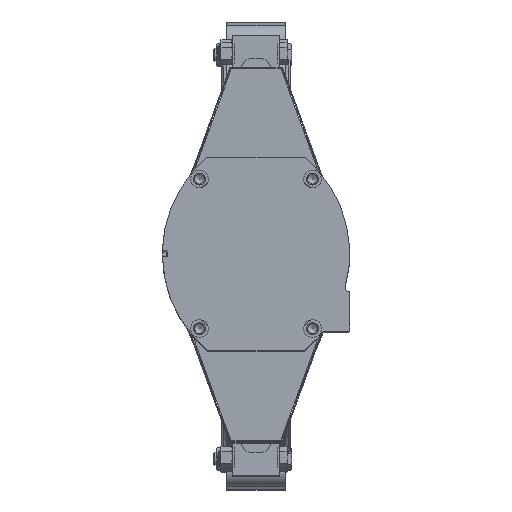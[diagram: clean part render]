
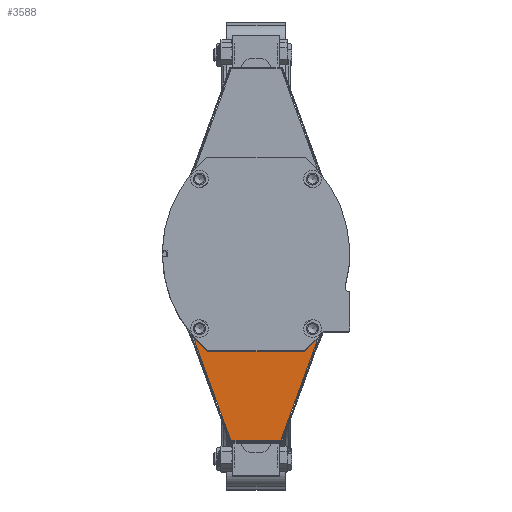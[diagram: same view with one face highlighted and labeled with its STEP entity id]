
A CAD part, top view. The second image highlights one B-rep face of the part: STEP entity #3588.
In plain terms, the highlighted planar face has unit normal (0, 0, 1).
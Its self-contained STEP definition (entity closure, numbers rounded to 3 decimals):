
#3588=ADVANCED_FACE('',(#8460),#8461,.F.);
#8460=FACE_OUTER_BOUND('',#17967,.T.);
#8461=PLANE('',#17968);
#17967=EDGE_LOOP('',(#34675,#34676,#34677,#34678,#34679,#34680));
#17968=AXIS2_PLACEMENT_3D('',#34681,#34682,#34683);
#34675=ORIENTED_EDGE('',*,*,#54496,.F.);
#34676=ORIENTED_EDGE('',*,*,#54497,.T.);
#34677=ORIENTED_EDGE('',*,*,#53719,.F.);
#34678=ORIENTED_EDGE('',*,*,#54498,.F.);
#34679=ORIENTED_EDGE('',*,*,#54499,.F.);
#34680=ORIENTED_EDGE('',*,*,#54500,.T.);
#34681=CARTESIAN_POINT('',(77.406,-86.779,877.286));
#34682=DIRECTION('',(0.,0.,-1.));
#34683=DIRECTION('',(0.,-1.,0.));
#53719=EDGE_CURVE('',#63519,#63520,#63521,.T.);
#54496=EDGE_CURVE('',#64886,#64887,#64888,.T.);
#54497=EDGE_CURVE('',#64886,#63520,#64889,.T.);
#54498=EDGE_CURVE('',#64890,#63519,#64891,.T.);
#54499=EDGE_CURVE('',#64892,#64890,#64893,.T.);
#54500=EDGE_CURVE('',#64892,#64887,#64894,.T.);
#63519=VERTEX_POINT('',#82184);
#63520=VERTEX_POINT('',#82185);
#63521=LINE('',#82186,#82187);
#64886=VERTEX_POINT('',#84292);
#64887=VERTEX_POINT('',#84293);
#64888=LINE('',#84294,#84295);
#64889=LINE('',#84296,#84297);
#64890=VERTEX_POINT('',#84298);
#64891=LINE('',#84299,#84300);
#64892=VERTEX_POINT('',#84301);
#64893=LINE('',#84302,#84303);
#64894=LINE('',#84304,#84305);
#82184=CARTESIAN_POINT('',(73.398,-107.797,877.286));
#82185=CARTESIAN_POINT('',(30.092,-226.779,877.286));
#82186=CARTESIAN_POINT('',(80.622,-87.95,877.286));
#82187=VECTOR('',#101448,1.);
#84292=CARTESIAN_POINT('',(-30.594,-226.779,877.286));
#84293=CARTESIAN_POINT('',(-73.899,-107.797,877.286));
#84294=CARTESIAN_POINT('',(-62.955,-137.867,877.286));
#84295=VECTOR('',#102793,1.);
#84296=CARTESIAN_POINT('',(-30.594,-226.779,877.286));
#84297=VECTOR('',#102794,1.);
#84298=CARTESIAN_POINT('',(77.406,-86.779,877.286));
#84299=CARTESIAN_POINT('',(77.406,-86.779,877.286));
#84300=VECTOR('',#102795,1.);
#84301=CARTESIAN_POINT('',(-77.908,-86.779,877.286));
#84302=CARTESIAN_POINT('',(30.092,-86.779,877.286));
#84303=VECTOR('',#102796,1.);
#84304=CARTESIAN_POINT('',(-77.908,-86.779,877.286));
#84305=VECTOR('',#102797,1.);
#101448=DIRECTION('',(-0.342,-0.94,0.));
#102793=DIRECTION('',(-0.342,0.94,0.));
#102794=DIRECTION('',(1.,0.,0.));
#102795=DIRECTION('',(-0.187,-0.982,0.));
#102796=DIRECTION('',(1.,0.,0.));
#102797=DIRECTION('',(0.187,-0.982,0.));
